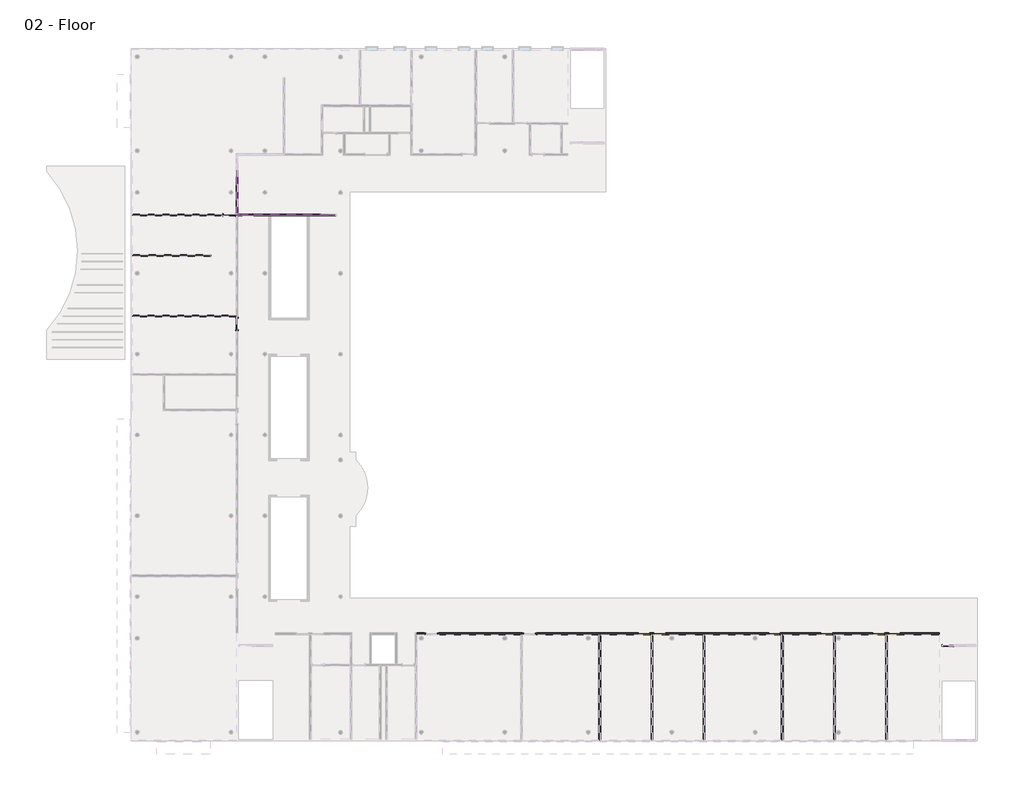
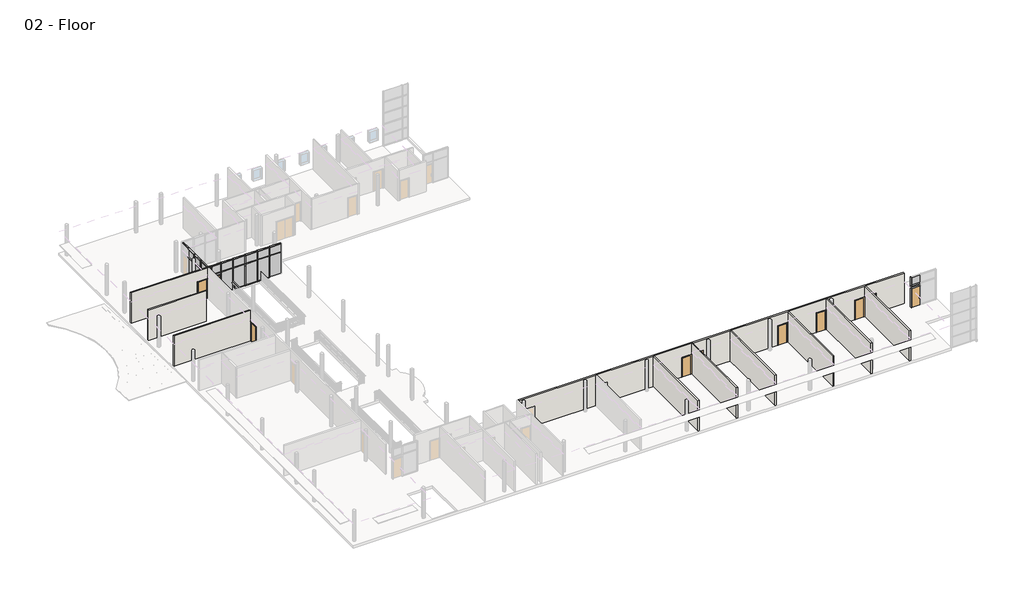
# One storey, part 2 of 5: 62 members, 22 plates, 10 doors, 10 walls.
"""IFC4 building model written with IfcOpenShell, lengths in millimetres."""

from ifc_helpers import new_model, si_unit, frame, origin, place, context, project, spatial, polyline, outline, extrude, faceted_brep, transform, mapped, element, save
from components import curtain_wall_sgl_glass_curtain_wall_sgl_glass_ab2568d1, curtain_wall_sgl_glass_curtain_wall_sgl_glass_c2d4b377, door_a1797ceb, door_a3eb833a, member_18e22e2d, member_9193c932, member_c617b399, member_28f0a790, member_2c3f20f2, member_9aff912a, member_69c8e218, member_e80433b6, member_c4de40ee, member_a715cb85, member_410c6227, member_73c23c35, member_6186cc23, member_5d67b9fc, member_c327c56d, member_a50b3cda, member_dd5c6200, member_38b8e9cb, system_panel_glazed_8c2c847a, system_panel_glazed_8a7cc684, system_panel_glazed_f4c55b59, system_panel_glazed_5b8ca2f9, system_panel_glazed_63e32c76, system_panel_glazed_72fe8651, system_panel_glazed_06645575, system_panel_glazed_1b64d018, system_panel_glazed_b962cb7b, system_panel_glazed_4de51809, system_panel_glazed_1fc46e14, system_panel_glazed_011a4f1d

model = new_model("IFC4")

# Units and contexts
model_context = context("Model", 3, world=origin())
ifc_project = project(units=[si_unit("LENGTHUNIT", "METRE", prefix="MILLI")], contexts=[model_context])

# Site, building, storey
site = spatial("IfcSite", under=ifc_project)
building = spatial("IfcBuilding", under=site)
storey = spatial("IfcBuildingStorey", under=building, Name="02 - Floor", Elevation=3657.6)

# Doors
placement = place(None, origin())
curtain_wall_sgl_glass_curtain_wall_sgl_glass_shape = curtain_wall_sgl_glass_curtain_wall_sgl_glass_ab2568d1(model_context)
element("IfcDoor", 1, ObjectType="Curtain Wall Sgl Glass : Curtain Wall Sgl Glass", at=placement, inside=storey, context=model_context, shape_type="MappedRepresentation", body=[
    mapped(curtain_wall_sgl_glass_curtain_wall_sgl_glass_shape, transform((63869.2207476, 7356.4, 3657.6), x_axis=(-1.0, 0.0, 0.0), y_axis=(0.0, -1.0, 0.0), z_axis=(0.0, 0.0, 1.0))),
])
curtain_wall_sgl_glass_curtain_wall_sgl_glass_2_shape = curtain_wall_sgl_glass_curtain_wall_sgl_glass_c2d4b377(model_context)
element("IfcDoor", 2, ObjectType="Curtain Wall Sgl Glass : Curtain Wall Sgl Glass", at=placement, inside=storey, context=model_context, shape_type="MappedRepresentation", body=[
    mapped(curtain_wall_sgl_glass_curtain_wall_sgl_glass_2_shape, transform((9279.6358763, 40897.1, 3657.6), x_axis=(-1.0, 0.0, 0.0), y_axis=(0.0, -1.0, 0.0), z_axis=(0.0, 0.0, 1.0))),
])
door_shape = door_a1797ceb(model_context)
element("IfcDoor", 3, ObjectType="Single-Flush : 36\" x 84\"", at=placement, inside=storey, context=model_context, shape_type="MappedRepresentation", body=[
    mapped(door_shape, transform((8421.0207476, 32413.5, 3657.6), x_axis=(0.0, 1.0, 0.0), y_axis=(-1.0, 0.0, 0.0), z_axis=(0.0, 0.0, 1.0))),
])
element("IfcDoor", 4, ObjectType="Single-Flush : 36\" x 84\"", at=placement, inside=storey, context=model_context, shape_type="MappedRepresentation", body=[
    mapped(door_shape, transform((41364.8207476, 8270.8, 3657.6), x_axis=(-1.0, 0.0, 0.0), y_axis=(0.0, -1.0, 0.0), z_axis=(0.0, 0.0, 1.0))),
])
element("IfcDoor", 5, ObjectType="Single-Flush : 36\" x 84\"", at=placement, inside=storey, context=model_context, shape_type="MappedRepresentation", body=[
    mapped(door_shape, transform((59652.8207476, 8270.8, 3657.6), x_axis=(-1.0, 0.0, 0.0), y_axis=(0.0, -1.0, 0.0), z_axis=(0.0, 0.0, 1.0))),
])
door_2_shape = door_a3eb833a(model_context)
element("IfcDoor", 6, ObjectType="Single-Flush : 36\" x 84\"", at=placement, inside=storey, context=model_context, shape_type="MappedRepresentation", body=[
    mapped(door_2_shape, transform((40145.6207476, 8270.8, 3657.6), x_axis=(1.0, 0.0, 0.0), y_axis=(0.0, 1.0, 0.0), z_axis=(0.0, 0.0, 1.0))),
])
element("IfcDoor", 7, ObjectType="Single-Flush : 36\" x 84\"", at=placement, inside=storey, context=model_context, shape_type="MappedRepresentation", body=[
    mapped(door_2_shape, transform((50305.6207476, 8270.8, 3657.6), x_axis=(1.0, 0.0, 0.0), y_axis=(0.0, 1.0, 0.0), z_axis=(0.0, 0.0, 1.0))),
])
element("IfcDoor", 8, ObjectType="Single-Flush : 36\" x 84\"", at=placement, inside=storey, context=model_context, shape_type="MappedRepresentation", body=[
    mapped(door_2_shape, transform((58433.6207476, 8270.8, 3657.6), x_axis=(1.0, 0.0, 0.0), y_axis=(0.0, 1.0, 0.0), z_axis=(0.0, 0.0, 1.0))),
])
element("IfcDoor", 9, ObjectType="Single-Flush : 36\" x 84\"", at=placement, inside=storey, context=model_context, shape_type="MappedRepresentation", body=[
    mapped(door_2_shape, transform((54369.6207476, 8270.8, 3657.6), x_axis=(1.0, 0.0, 0.0), y_axis=(0.0, 1.0, 0.0), z_axis=(0.0, 0.0, 1.0))),
])
element("IfcDoor", 10, ObjectType="Single-Flush : 36\" x 84\"", at=placement, inside=storey, context=model_context, shape_type="MappedRepresentation", body=[
    mapped(door_2_shape, transform((7811.4207476, 40897.1, 3657.6), x_axis=(1.0, 0.0, 0.0), y_axis=(0.0, 1.0, 0.0), z_axis=(0.0, 0.0, 1.0))),
])

# Members
member_shape = member_18e22e2d(model_context)
element("IfcMember", 11, ObjectType="Rectangular Mullion : 2.5\" x 5\" rectangular", at=placement, inside=storey, context=model_context, shape_type="MappedRepresentation", body=[
    mapped(member_shape, transform((14904.846391, 40897.1, 6096.0), x_axis=(-1.0, 0.0, 0.0), y_axis=(0.0, 1.0, 0.0), z_axis=(0.0, 0.0, -1.0))),
])
element("IfcMember", 12, ObjectType="Rectangular Mullion : 2.5\" x 5\" rectangular", at=placement, inside=storey, context=model_context, shape_type="MappedRepresentation", body=[
    mapped(member_shape, transform((13620.7812623, 40897.1, 6096.0), x_axis=(-1.0, 0.0, 0.0), y_axis=(0.0, 1.0, 0.0), z_axis=(0.0, 0.0, -1.0))),
])
element("IfcMember", 13, ObjectType="Rectangular Mullion : 2.5\" x 5\" rectangular", at=placement, inside=storey, context=model_context, shape_type="MappedRepresentation", body=[
    mapped(member_shape, transform((12336.7161336, 40897.1, 6096.0), x_axis=(-1.0, 0.0, 0.0), y_axis=(0.0, 1.0, 0.0), z_axis=(0.0, 0.0, -1.0))),
])
element("IfcMember", 14, ObjectType="Rectangular Mullion : 2.5\" x 5\" rectangular", at=placement, inside=storey, context=model_context, shape_type="MappedRepresentation", body=[
    mapped(member_shape, transform((11052.651005, 40897.1, 6096.0), x_axis=(-1.0, 0.0, 0.0), y_axis=(0.0, 1.0, 0.0), z_axis=(0.0, 0.0, -1.0))),
])
element("IfcMember", 15, ObjectType="Rectangular Mullion : 2.5\" x 5\" rectangular", at=placement, inside=storey, context=model_context, shape_type="MappedRepresentation", body=[
    mapped(member_shape, transform((9768.5858763, 40897.1, 6096.0), x_axis=(-1.0, 0.0, 0.0), y_axis=(0.0, 1.0, 0.0), z_axis=(0.0, 0.0, -1.0))),
])
element("IfcMember", 16, ObjectType="Rectangular Mullion : 2.5\" x 5\" rectangular", at=placement, inside=storey, context=model_context, shape_type="MappedRepresentation", body=[
    mapped(member_shape, transform((8421.0207476, 43284.7, 6096.0), x_axis=(0.0, -1.0, 0.0), y_axis=(-1.0, 0.0, 0.0), z_axis=(0.0, 0.0, -1.0))),
])
element("IfcMember", 17, ObjectType="Rectangular Mullion : 2.5\" x 5\" rectangular", at=placement, inside=storey, context=model_context, shape_type="MappedRepresentation", body=[
    mapped(member_shape, transform((8421.0207476, 42122.65, 6096.0), x_axis=(0.0, -1.0, 0.0), y_axis=(-1.0, 0.0, 0.0), z_axis=(0.0, 0.0, -1.0))),
])
element("IfcMember", 18, ObjectType="Rectangular Mullion : 2.5\" x 5\" rectangular", at=placement, inside=storey, context=model_context, shape_type="MappedRepresentation", body=[
    mapped(member_shape, transform((8790.6858763, 40897.1, 6096.0), x_axis=(-1.0, 0.0, 0.0), y_axis=(0.0, 1.0, 0.0), z_axis=(0.0, 0.0, -1.0))),
])
member_2_shape = member_9193c932(model_context)
element("IfcMember", 19, ObjectType="Rectangular Mullion : 2.5\" x 5\" rectangular", at=placement, inside=storey, context=model_context, shape_type="MappedRepresentation", body=[
    mapped(member_2_shape, transform((63348.5207476, 7356.4, 7061.2), x_axis=(-1.0, 0.0, 0.0), y_axis=(0.0, -1.0, 0.0), z_axis=(0.0, 0.0, 1.0))),
])
element("IfcMember", 20, ObjectType="Rectangular Mullion : 2.5\" x 5\" rectangular", at=placement, inside=storey, context=model_context, shape_type="MappedRepresentation", body=[
    mapped(member_2_shape, transform((8484.5207476, 40897.1, 6096.0), x_axis=(-1.0, 0.0, 0.0), y_axis=(0.0, 1.0, 0.0), z_axis=(0.0, 0.0, -1.0))),
])
element("IfcMember", 21, ObjectType="Rectangular Mullion : 2.5\" x 5\" rectangular", at=placement, inside=storey, context=model_context, shape_type="MappedRepresentation", body=[
    mapped(member_2_shape, transform((8421.0207476, 40960.6, 6096.0), x_axis=(0.0, -1.0, 0.0), y_axis=(-1.0, 0.0, 0.0), z_axis=(0.0, 0.0, -1.0))),
])
member_3_shape = member_c617b399(model_context)
element("IfcMember", 22, ObjectType="Rectangular Mullion : 2.5\" x 5\" rectangular", at=placement, inside=storey, context=model_context, shape_type="MappedRepresentation", body=[
    mapped(member_3_shape, transform((14936.596391, 40897.1, 7061.2), x_axis=(0.0, 0.0, 1.0), y_axis=(0.0, 1.0, 0.0), z_axis=(-1.0, 0.0, 0.0))),
])
member_4_shape = member_28f0a790(model_context)
element("IfcMember", 23, ObjectType="Rectangular Mullion : 2.5\" x 5\" rectangular", at=placement, inside=storey, context=model_context, shape_type="MappedRepresentation", body=[
    mapped(member_4_shape, transform((13652.5312623, 40897.1, 7061.2), x_axis=(0.0, 0.0, 1.0), y_axis=(0.0, 1.0, 0.0), z_axis=(-1.0, 0.0, 0.0))),
])
element("IfcMember", 24, ObjectType="Rectangular Mullion : 2.5\" x 5\" rectangular", at=placement, inside=storey, context=model_context, shape_type="MappedRepresentation", body=[
    mapped(member_4_shape, transform((12368.4661336, 40897.1, 7061.2), x_axis=(0.0, 0.0, 1.0), y_axis=(0.0, 1.0, 0.0), z_axis=(-1.0, 0.0, 0.0))),
])
element("IfcMember", 25, ObjectType="Rectangular Mullion : 2.5\" x 5\" rectangular", at=placement, inside=storey, context=model_context, shape_type="MappedRepresentation", body=[
    mapped(member_4_shape, transform((11084.401005, 40897.1, 7061.2), x_axis=(0.0, 0.0, 1.0), y_axis=(0.0, 1.0, 0.0), z_axis=(-1.0, 0.0, 0.0))),
])
element("IfcMember", 26, ObjectType="Rectangular Mullion : 2.5\" x 5\" rectangular", at=placement, inside=storey, context=model_context, shape_type="MappedRepresentation", body=[
    mapped(member_4_shape, transform((9800.3358763, 40897.1, 7061.2), x_axis=(0.0, 0.0, 1.0), y_axis=(0.0, 1.0, 0.0), z_axis=(-1.0, 0.0, 0.0))),
])
element("IfcMember", 27, ObjectType="Rectangular Mullion : 2.5\" x 5\" rectangular", at=placement, inside=storey, context=model_context, shape_type="MappedRepresentation", body=[
    mapped(member_4_shape, transform((14873.096391, 40897.1, 3657.6), x_axis=(0.0, 0.0, -1.0), y_axis=(0.0, 1.0, 0.0), z_axis=(1.0, 0.0, 0.0))),
])
element("IfcMember", 28, ObjectType="Rectangular Mullion : 2.5\" x 5\" rectangular", at=placement, inside=storey, context=model_context, shape_type="MappedRepresentation", body=[
    mapped(member_4_shape, transform((13589.0312623, 40897.1, 3657.6), x_axis=(0.0, 0.0, -1.0), y_axis=(0.0, 1.0, 0.0), z_axis=(1.0, 0.0, 0.0))),
])
element("IfcMember", 29, ObjectType="Rectangular Mullion : 2.5\" x 5\" rectangular", at=placement, inside=storey, context=model_context, shape_type="MappedRepresentation", body=[
    mapped(member_4_shape, transform((12304.9661336, 40897.1, 3657.6), x_axis=(0.0, 0.0, -1.0), y_axis=(0.0, 1.0, 0.0), z_axis=(1.0, 0.0, 0.0))),
])
element("IfcMember", 30, ObjectType="Rectangular Mullion : 2.5\" x 5\" rectangular", at=placement, inside=storey, context=model_context, shape_type="MappedRepresentation", body=[
    mapped(member_4_shape, transform((11020.901005, 40897.1, 3657.6), x_axis=(0.0, 0.0, -1.0), y_axis=(0.0, 1.0, 0.0), z_axis=(1.0, 0.0, 0.0))),
])
member_5_shape = member_2c3f20f2(model_context)
element("IfcMember", 31, ObjectType="Rectangular Mullion : 2.5\" x 5\" rectangular", at=placement, inside=storey, context=model_context, shape_type="MappedRepresentation", body=[
    mapped(member_5_shape, transform((14936.596391, 40897.1, 6096.0), x_axis=(0.0, 0.0, 1.0), y_axis=(0.0, 1.0, 0.0), z_axis=(-1.0, 0.0, 0.0))),
])
member_6_shape = member_9aff912a(model_context)
element("IfcMember", 32, ObjectType="Rectangular Mullion : 2.5\" x 5\" rectangular", at=placement, inside=storey, context=model_context, shape_type="MappedRepresentation", body=[
    mapped(member_6_shape, transform((13652.5312623, 40897.1, 6096.0), x_axis=(0.0, 0.0, 1.0), y_axis=(0.0, 1.0, 0.0), z_axis=(-1.0, 0.0, 0.0))),
])
element("IfcMember", 33, ObjectType="Rectangular Mullion : 2.5\" x 5\" rectangular", at=placement, inside=storey, context=model_context, shape_type="MappedRepresentation", body=[
    mapped(member_6_shape, transform((12368.4661336, 40897.1, 6096.0), x_axis=(0.0, 0.0, 1.0), y_axis=(0.0, 1.0, 0.0), z_axis=(-1.0, 0.0, 0.0))),
])
element("IfcMember", 34, ObjectType="Rectangular Mullion : 2.5\" x 5\" rectangular", at=placement, inside=storey, context=model_context, shape_type="MappedRepresentation", body=[
    mapped(member_6_shape, transform((11084.401005, 40897.1, 6096.0), x_axis=(0.0, 0.0, 1.0), y_axis=(0.0, 1.0, 0.0), z_axis=(-1.0, 0.0, 0.0))),
])
element("IfcMember", 35, ObjectType="Rectangular Mullion : 2.5\" x 5\" rectangular", at=placement, inside=storey, context=model_context, shape_type="MappedRepresentation", body=[
    mapped(member_6_shape, transform((9800.3358763, 40897.1, 6096.0), x_axis=(0.0, 0.0, 1.0), y_axis=(0.0, 1.0, 0.0), z_axis=(-1.0, 0.0, 0.0))),
])
member_7_shape = member_69c8e218(model_context)
element("IfcMember", 36, ObjectType="Rectangular Mullion : 2.5\" x 5\" rectangular", at=placement, inside=storey, context=model_context, shape_type="MappedRepresentation", body=[
    mapped(member_7_shape, transform((8421.0207476, 43316.45, 7061.2), x_axis=(0.0, 0.0, 1.0), y_axis=(-1.0, 0.0, 0.0), z_axis=(0.0, -1.0, 0.0))),
])
element("IfcMember", 37, ObjectType="Rectangular Mullion : 2.5\" x 5\" rectangular", at=placement, inside=storey, context=model_context, shape_type="MappedRepresentation", body=[
    mapped(member_7_shape, transform((8421.0207476, 42154.4, 7061.2), x_axis=(0.0, 0.0, 1.0), y_axis=(-1.0, 0.0, 0.0), z_axis=(0.0, -1.0, 0.0))),
])
element("IfcMember", 38, ObjectType="Rectangular Mullion : 2.5\" x 5\" rectangular", at=placement, inside=storey, context=model_context, shape_type="MappedRepresentation", body=[
    mapped(member_7_shape, transform((8421.0207476, 43252.95, 3657.6), x_axis=(0.0, 0.0, -1.0), y_axis=(-1.0, 0.0, 0.0), z_axis=(0.0, 1.0, 0.0))),
])
member_8_shape = member_e80433b6(model_context)
element("IfcMember", 39, ObjectType="Rectangular Mullion : 2.5\" x 5\" rectangular", at=placement, inside=storey, context=model_context, shape_type="MappedRepresentation", body=[
    mapped(member_8_shape, transform((8421.0207476, 43316.45, 6096.0), x_axis=(0.0, 0.0, 1.0), y_axis=(-1.0, 0.0, 0.0), z_axis=(0.0, -1.0, 0.0))),
])
element("IfcMember", 40, ObjectType="Rectangular Mullion : 2.5\" x 5\" rectangular", at=placement, inside=storey, context=model_context, shape_type="MappedRepresentation", body=[
    mapped(member_8_shape, transform((8421.0207476, 42154.4, 6096.0), x_axis=(0.0, 0.0, 1.0), y_axis=(-1.0, 0.0, 0.0), z_axis=(0.0, -1.0, 0.0))),
])
member_9_shape = member_c4de40ee(model_context)
element("IfcMember", 41, ObjectType="Rectangular Mullion : 2.5\" x 5\" rectangular", at=placement, inside=storey, context=model_context, shape_type="MappedRepresentation", body=[
    mapped(member_9_shape, transform((8421.0207476, 41024.1, 7061.2), x_axis=(0.0, 0.0, 1.0), y_axis=(-1.0, 0.0, 0.0), z_axis=(0.0, -1.0, 0.0))),
])
element("IfcMember", 42, ObjectType="Rectangular Mullion : 2.5\" x 5\" rectangular", at=placement, inside=storey, context=model_context, shape_type="MappedRepresentation", body=[
    mapped(member_9_shape, transform((8421.0207476, 42090.9, 3657.6), x_axis=(0.0, 0.0, -1.0), y_axis=(-1.0, 0.0, 0.0), z_axis=(0.0, 1.0, 0.0))),
])
member_10_shape = member_a715cb85(model_context)
element("IfcMember", 43, ObjectType="Rectangular Mullion : 2.5\" x 5\" rectangular", at=placement, inside=storey, context=model_context, shape_type="MappedRepresentation", body=[
    mapped(member_10_shape, transform((8421.0207476, 41024.1, 6096.0), x_axis=(0.0, 0.0, 1.0), y_axis=(-1.0, 0.0, 0.0), z_axis=(0.0, -1.0, 0.0))),
])
member_11_shape = member_410c6227(model_context)
element("IfcMember", 44, ObjectType="Rectangular Mullion : 2.5\" x 5\" rectangular", at=placement, inside=storey, context=model_context, shape_type="MappedRepresentation", body=[
    mapped(member_11_shape, transform((8822.4358763, 40897.1, 6096.0), x_axis=(0.0, 0.0, 1.0), y_axis=(0.0, 1.0, 0.0), z_axis=(-1.0, 0.0, 0.0))),
])
element("IfcMember", 45, ObjectType="Rectangular Mullion : 2.5\" x 5\" rectangular", at=placement, inside=storey, context=model_context, shape_type="MappedRepresentation", body=[
    mapped(member_11_shape, transform((8822.4358763, 40897.1, 5822.95), x_axis=(0.0, 0.0, 1.0), y_axis=(0.0, 1.0, 0.0), z_axis=(-1.0, 0.0, 0.0))),
])
member_12_shape = member_73c23c35(model_context)
element("IfcMember", 46, ObjectType="Rectangular Mullion : 2.5\" x 5\" rectangular", at=placement, inside=storey, context=model_context, shape_type="MappedRepresentation", body=[
    mapped(member_12_shape, transform((8421.0207476, 44478.5, 7061.2), x_axis=(0.0, 0.0, 1.0), y_axis=(-1.0, 0.0, 0.0), z_axis=(0.0, -1.0, 0.0))),
])
element("IfcMember", 47, ObjectType="Rectangular Mullion : 2.5\" x 5\" rectangular", at=placement, inside=storey, context=model_context, shape_type="MappedRepresentation", body=[
    mapped(member_12_shape, transform((8822.4358763, 40897.1, 7061.2), x_axis=(0.0, 0.0, 1.0), y_axis=(0.0, 1.0, 0.0), z_axis=(-1.0, 0.0, 0.0))),
])
member_13_shape = member_6186cc23(model_context)
element("IfcMember", 48, ObjectType="Rectangular Mullion : 2.5\" x 5\" rectangular", at=placement, inside=storey, context=model_context, shape_type="MappedRepresentation", body=[
    mapped(member_13_shape, transform((9768.5858763, 40897.1, 3657.6), x_axis=(-1.0, 0.0, 0.0), y_axis=(0.0, 1.0, 0.0), z_axis=(0.0, 0.0, -1.0))),
])
element("IfcMember", 49, ObjectType="Rectangular Mullion : 2.5\" x 5\" rectangular", at=placement, inside=storey, context=model_context, shape_type="MappedRepresentation", body=[
    mapped(member_13_shape, transform((8790.6858763, 40897.1, 3657.6), x_axis=(-1.0, 0.0, 0.0), y_axis=(0.0, 1.0, 0.0), z_axis=(0.0, 0.0, -1.0))),
])
member_14_shape = member_5d67b9fc(model_context)
element("IfcMember", 50, ObjectType="Rectangular Mullion : 2.5\" x 5\" rectangular", at=placement, inside=storey, context=model_context, shape_type="MappedRepresentation", body=[
    mapped(member_14_shape, transform((9768.5858763, 40897.1, 5822.95), x_axis=(-1.0, 0.0, 0.0), y_axis=(0.0, 1.0, 0.0), z_axis=(0.0, 0.0, -1.0))),
])
element("IfcMember", 51, ObjectType="Rectangular Mullion : 2.5\" x 5\" rectangular", at=placement, inside=storey, context=model_context, shape_type="MappedRepresentation", body=[
    mapped(member_14_shape, transform((8790.6858763, 40897.1, 5822.95), x_axis=(-1.0, 0.0, 0.0), y_axis=(0.0, 1.0, 0.0), z_axis=(0.0, 0.0, -1.0))),
])
member_15_shape = member_c327c56d(model_context)
element("IfcMember", 52, ObjectType="Rectangular Mullion : 2.5\" x 5\" rectangular", at=placement, inside=storey, context=model_context, shape_type="MappedRepresentation", body=[
    mapped(member_15_shape, transform((63348.5207476, 7356.4, 6096.0), x_axis=(-1.0, 0.0, 0.0), y_axis=(0.0, -1.0, 0.0), z_axis=(0.0, 0.0, 1.0))),
])
member_16_shape = member_a50b3cda(model_context)
element("IfcMember", 53, ObjectType="Rectangular Mullion : 2.5\" x 5\" rectangular", at=placement, inside=storey, context=model_context, shape_type="MappedRepresentation", body=[
    mapped(member_16_shape, transform((63348.5207476, 7356.4, 5822.95), x_axis=(-1.0, 0.0, 0.0), y_axis=(0.0, -1.0, 0.0), z_axis=(0.0, 0.0, 1.0))),
])
element("IfcMember", 54, ObjectType="Rectangular Mullion : 2.5\" x 5\" rectangular", at=placement, inside=storey, context=model_context, shape_type="MappedRepresentation", body=[
    mapped(member_16_shape, transform((8484.5207476, 40897.1, 3657.6), x_axis=(-1.0, 0.0, 0.0), y_axis=(0.0, 1.0, 0.0), z_axis=(0.0, 0.0, -1.0))),
])
element("IfcMember", 55, ObjectType="Rectangular Mullion : 2.5\" x 5\" rectangular", at=placement, inside=storey, context=model_context, shape_type="MappedRepresentation", body=[
    mapped(member_16_shape, transform((8421.0207476, 40960.6, 3657.6), x_axis=(0.0, -1.0, 0.0), y_axis=(-1.0, 0.0, 0.0), z_axis=(0.0, 0.0, -1.0))),
])
element("IfcMember", 56, ObjectType="Rectangular Mullion : 2.5\" x 5\" rectangular", at=placement, inside=storey, context=model_context, shape_type="MappedRepresentation", body=[
    mapped(member_15_shape, transform((8484.5207476, 40897.1, 5822.95), x_axis=(-1.0, 0.0, 0.0), y_axis=(0.0, 1.0, 0.0), z_axis=(0.0, 0.0, -1.0))),
])
element("IfcMember", 57, ObjectType="Rectangular Mullion : 2.5\" x 5\" rectangular", at=placement, inside=storey, context=model_context, shape_type="MappedRepresentation", body=[
    mapped(member_15_shape, transform((8421.0207476, 40960.6, 5822.95), x_axis=(0.0, -1.0, 0.0), y_axis=(-1.0, 0.0, 0.0), z_axis=(0.0, 0.0, -1.0))),
])
member_17_shape = member_dd5c6200(model_context)
element("IfcMember", 58, ObjectType="Rectangular Mullion : 2.5\" x 5\" rectangular", at=placement, inside=storey, context=model_context, shape_type="MappedRepresentation", body=[
    mapped(member_17_shape, transform((8548.0207476, 40897.1, 7061.2), x_axis=(0.0, 0.0, 1.0), y_axis=(0.0, 1.0, 0.0), z_axis=(-1.0, 0.0, 0.0))),
])
element("IfcMember", 59, ObjectType="Rectangular Mullion : 2.5\" x 5\" rectangular", at=placement, inside=storey, context=model_context, shape_type="MappedRepresentation", body=[
    mapped(member_17_shape, transform((8758.9358763, 40897.1, 3657.6), x_axis=(0.0, 0.0, -1.0), y_axis=(0.0, 1.0, 0.0), z_axis=(1.0, 0.0, 0.0))),
])
member_18_shape = member_38b8e9cb(model_context)
element("IfcMember", 60, ObjectType="Rectangular Mullion : 2.5\" x 5\" rectangular", at=placement, inside=storey, context=model_context, shape_type="MappedRepresentation", body=[
    mapped(member_18_shape, transform((8548.0207476, 40897.1, 6096.0), x_axis=(0.0, 0.0, 1.0), y_axis=(0.0, 1.0, 0.0), z_axis=(-1.0, 0.0, 0.0))),
])
element("IfcMember", 61, ObjectType="Rectangular Mullion : 2.5\" x 5\" rectangular", at=placement, inside=storey, context=model_context, shape_type="MappedRepresentation", body=[
    mapped(member_13_shape, transform((14904.846391, 40897.1, 3657.6), x_axis=(-1.0, 0.0, 0.0), y_axis=(0.0, 1.0, 0.0), z_axis=(0.0, 0.0, -1.0))),
])
element("IfcMember", 62, ObjectType="Rectangular Mullion : 2.5\" x 5\" rectangular", at=placement, inside=storey, context=model_context, shape_type="MappedRepresentation", body=[
    mapped(member_13_shape, transform((13620.7812623, 40897.1, 3657.6), x_axis=(-1.0, 0.0, 0.0), y_axis=(0.0, 1.0, 0.0), z_axis=(0.0, 0.0, -1.0))),
])
element("IfcMember", 63, ObjectType="Rectangular Mullion : 2.5\" x 5\" rectangular", at=placement, inside=storey, context=model_context, shape_type="MappedRepresentation", body=[
    mapped(member_13_shape, transform((12336.7161336, 40897.1, 3657.6), x_axis=(-1.0, 0.0, 0.0), y_axis=(0.0, 1.0, 0.0), z_axis=(0.0, 0.0, -1.0))),
])
element("IfcMember", 64, ObjectType="Rectangular Mullion : 2.5\" x 5\" rectangular", at=placement, inside=storey, context=model_context, shape_type="MappedRepresentation", body=[
    mapped(member_13_shape, transform((11052.651005, 40897.1, 3657.6), x_axis=(-1.0, 0.0, 0.0), y_axis=(0.0, 1.0, 0.0), z_axis=(0.0, 0.0, -1.0))),
])
element("IfcMember", 65, ObjectType="Rectangular Mullion : 2.5\" x 5\" rectangular", at=placement, inside=storey, context=model_context, shape_type="MappedRepresentation", body=[
    mapped(member_13_shape, transform((8421.0207476, 43284.7, 3657.6), x_axis=(0.0, -1.0, 0.0), y_axis=(-1.0, 0.0, 0.0), z_axis=(0.0, 0.0, -1.0))),
])
element("IfcMember", 66, ObjectType="Rectangular Mullion : 2.5\" x 5\" rectangular", at=placement, inside=storey, context=model_context, shape_type="MappedRepresentation", body=[
    mapped(member_13_shape, transform((8421.0207476, 42122.65, 3657.6), x_axis=(0.0, -1.0, 0.0), y_axis=(-1.0, 0.0, 0.0), z_axis=(0.0, 0.0, -1.0))),
])
element("IfcMember", 67, ObjectType="Rectangular Mullion : 2.5\" x 5\" rectangular", at=placement, inside=storey, context=model_context, shape_type="MappedRepresentation", body=[
    mapped(member_14_shape, transform((14904.846391, 40897.1, 5822.95), x_axis=(-1.0, 0.0, 0.0), y_axis=(0.0, 1.0, 0.0), z_axis=(0.0, 0.0, -1.0))),
])
element("IfcMember", 68, ObjectType="Rectangular Mullion : 2.5\" x 5\" rectangular", at=placement, inside=storey, context=model_context, shape_type="MappedRepresentation", body=[
    mapped(member_14_shape, transform((13620.7812623, 40897.1, 5822.95), x_axis=(-1.0, 0.0, 0.0), y_axis=(0.0, 1.0, 0.0), z_axis=(0.0, 0.0, -1.0))),
])
element("IfcMember", 69, ObjectType="Rectangular Mullion : 2.5\" x 5\" rectangular", at=placement, inside=storey, context=model_context, shape_type="MappedRepresentation", body=[
    mapped(member_14_shape, transform((12336.7161336, 40897.1, 5822.95), x_axis=(-1.0, 0.0, 0.0), y_axis=(0.0, 1.0, 0.0), z_axis=(0.0, 0.0, -1.0))),
])
element("IfcMember", 70, ObjectType="Rectangular Mullion : 2.5\" x 5\" rectangular", at=placement, inside=storey, context=model_context, shape_type="MappedRepresentation", body=[
    mapped(member_14_shape, transform((11052.651005, 40897.1, 5822.95), x_axis=(-1.0, 0.0, 0.0), y_axis=(0.0, 1.0, 0.0), z_axis=(0.0, 0.0, -1.0))),
])
element("IfcMember", 71, ObjectType="Rectangular Mullion : 2.5\" x 5\" rectangular", at=placement, inside=storey, context=model_context, shape_type="MappedRepresentation", body=[
    mapped(member_14_shape, transform((8421.0207476, 43284.7, 5822.95), x_axis=(0.0, -1.0, 0.0), y_axis=(-1.0, 0.0, 0.0), z_axis=(0.0, 0.0, -1.0))),
])
element("IfcMember", 72, ObjectType="Rectangular Mullion : 2.5\" x 5\" rectangular", at=placement, inside=storey, context=model_context, shape_type="MappedRepresentation", body=[
    mapped(member_14_shape, transform((8421.0207476, 42122.65, 5822.95), x_axis=(0.0, -1.0, 0.0), y_axis=(-1.0, 0.0, 0.0), z_axis=(0.0, 0.0, -1.0))),
])

# Plates
system_panel_glazed_shape = system_panel_glazed_8c2c847a(model_context)
element("IfcPlate", 73, ObjectType="System Panel : Glazed", at=placement, inside=storey, context=model_context, shape_type="MappedRepresentation", body=[
    mapped(system_panel_glazed_shape, transform((8421.0207476, 43865.725, 6127.75), x_axis=(0.0, -1.0, 0.0), y_axis=(1.0, 0.0, 0.0), z_axis=(0.0, 0.0, 1.0))),
])
element("IfcPlate", 74, ObjectType="System Panel : Glazed", at=placement, inside=storey, context=model_context, shape_type="MappedRepresentation", body=[
    mapped(system_panel_glazed_shape, transform((8421.0207476, 42703.675, 6127.75), x_axis=(0.0, -1.0, 0.0), y_axis=(1.0, 0.0, 0.0), z_axis=(0.0, 0.0, 1.0))),
])
system_panel_glazed_2_shape = system_panel_glazed_8a7cc684(model_context)
element("IfcPlate", 75, ObjectType="System Panel : Glazed", at=placement, inside=storey, context=model_context, shape_type="MappedRepresentation", body=[
    mapped(system_panel_glazed_2_shape, transform((15531.0039553, 40897.1, 6127.75), x_axis=(-1.0, 0.0, 0.0), y_axis=(0.0, -1.0, 0.0), z_axis=(0.0, 0.0, 1.0))),
])
system_panel_glazed_3_shape = system_panel_glazed_f4c55b59(model_context)
element("IfcPlate", 76, ObjectType="System Panel : Glazed", at=placement, inside=storey, context=model_context, shape_type="MappedRepresentation", body=[
    mapped(system_panel_glazed_3_shape, transform((14262.8138267, 40897.1, 6127.75), x_axis=(-1.0, 0.0, 0.0), y_axis=(0.0, -1.0, 0.0), z_axis=(0.0, 0.0, 1.0))),
])
element("IfcPlate", 77, ObjectType="System Panel : Glazed", at=placement, inside=storey, context=model_context, shape_type="MappedRepresentation", body=[
    mapped(system_panel_glazed_3_shape, transform((12978.748698, 40897.1, 6127.75), x_axis=(-1.0, 0.0, 0.0), y_axis=(0.0, -1.0, 0.0), z_axis=(0.0, 0.0, 1.0))),
])
element("IfcPlate", 78, ObjectType="System Panel : Glazed", at=placement, inside=storey, context=model_context, shape_type="MappedRepresentation", body=[
    mapped(system_panel_glazed_3_shape, transform((11694.6835693, 40897.1, 6127.75), x_axis=(-1.0, 0.0, 0.0), y_axis=(0.0, -1.0, 0.0), z_axis=(0.0, 0.0, 1.0))),
])
element("IfcPlate", 79, ObjectType="System Panel : Glazed", at=placement, inside=storey, context=model_context, shape_type="MappedRepresentation", body=[
    mapped(system_panel_glazed_3_shape, transform((10410.6184406, 40897.1, 6127.75), x_axis=(-1.0, 0.0, 0.0), y_axis=(0.0, -1.0, 0.0), z_axis=(0.0, 0.0, 1.0))),
])
system_panel_glazed_4_shape = system_panel_glazed_5b8ca2f9(model_context)
element("IfcPlate", 80, ObjectType="System Panel : Glazed", at=placement, inside=storey, context=model_context, shape_type="MappedRepresentation", body=[
    mapped(system_panel_glazed_4_shape, transform((8421.0207476, 41557.5, 6127.75), x_axis=(0.0, -1.0, 0.0), y_axis=(1.0, 0.0, 0.0), z_axis=(0.0, 0.0, 1.0))),
])
system_panel_glazed_5_shape = system_panel_glazed_63e32c76(model_context)
element("IfcPlate", 81, ObjectType="System Panel : Glazed", at=placement, inside=storey, context=model_context, shape_type="MappedRepresentation", body=[
    mapped(system_panel_glazed_5_shape, transform((9279.6358763, 40897.1, 6127.75), x_axis=(-1.0, 0.0, 0.0), y_axis=(0.0, -1.0, 0.0), z_axis=(0.0, 0.0, 1.0))),
])
element("IfcPlate", 82, ObjectType="System Panel : Glazed", at=placement, inside=storey, context=model_context, shape_type="MappedRepresentation", body=[
    mapped(system_panel_glazed_5_shape, transform((63869.2207476, 7356.4, 6127.75), x_axis=(1.0, 0.0, 0.0), y_axis=(0.0, 1.0, 0.0), z_axis=(0.0, 0.0, 1.0))),
])
system_panel_glazed_6_shape = system_panel_glazed_72fe8651(model_context)
element("IfcPlate", 83, ObjectType="System Panel : Glazed", at=placement, inside=storey, context=model_context, shape_type="MappedRepresentation", body=[
    mapped(system_panel_glazed_6_shape, transform((63869.2207476, 7356.4, 5854.7), x_axis=(1.0, 0.0, 0.0), y_axis=(0.0, 1.0, 0.0), z_axis=(0.0, 0.0, 1.0))),
])
element("IfcPlate", 84, ObjectType="System Panel : Glazed", at=placement, inside=storey, context=model_context, shape_type="MappedRepresentation", body=[
    mapped(system_panel_glazed_6_shape, transform((9279.6358763, 40897.1, 5854.7), x_axis=(-1.0, 0.0, 0.0), y_axis=(0.0, -1.0, 0.0), z_axis=(0.0, 0.0, 1.0))),
])
system_panel_glazed_7_shape = system_panel_glazed_06645575(model_context)
element("IfcPlate", 85, ObjectType="System Panel : Glazed", at=placement, inside=storey, context=model_context, shape_type="MappedRepresentation", body=[
    mapped(system_panel_glazed_7_shape, transform((8653.478312, 40897.1, 6127.75), x_axis=(-1.0, 0.0, 0.0), y_axis=(0.0, -1.0, 0.0), z_axis=(0.0, 0.0, 1.0))),
])
system_panel_glazed_8_shape = system_panel_glazed_1b64d018(model_context)
element("IfcPlate", 86, ObjectType="System Panel : Glazed", at=placement, inside=storey, context=model_context, shape_type="MappedRepresentation", body=[
    mapped(system_panel_glazed_8_shape, transform((15531.0039553, 40897.1, 3721.1), x_axis=(-1.0, 0.0, 0.0), y_axis=(0.0, -1.0, 0.0), z_axis=(0.0, 0.0, 1.0))),
])
system_panel_glazed_9_shape = system_panel_glazed_b962cb7b(model_context)
element("IfcPlate", 87, ObjectType="System Panel : Glazed", at=placement, inside=storey, context=model_context, shape_type="MappedRepresentation", body=[
    mapped(system_panel_glazed_9_shape, transform((14262.8138267, 40897.1, 3721.1), x_axis=(-1.0, 0.0, 0.0), y_axis=(0.0, -1.0, 0.0), z_axis=(0.0, 0.0, 1.0))),
])
element("IfcPlate", 88, ObjectType="System Panel : Glazed", at=placement, inside=storey, context=model_context, shape_type="MappedRepresentation", body=[
    mapped(system_panel_glazed_9_shape, transform((12978.748698, 40897.1, 3721.1), x_axis=(-1.0, 0.0, 0.0), y_axis=(0.0, -1.0, 0.0), z_axis=(0.0, 0.0, 1.0))),
])
element("IfcPlate", 89, ObjectType="System Panel : Glazed", at=placement, inside=storey, context=model_context, shape_type="MappedRepresentation", body=[
    mapped(system_panel_glazed_9_shape, transform((11694.6835693, 40897.1, 3721.1), x_axis=(-1.0, 0.0, 0.0), y_axis=(0.0, -1.0, 0.0), z_axis=(0.0, 0.0, 1.0))),
])
element("IfcPlate", 90, ObjectType="System Panel : Glazed", at=placement, inside=storey, context=model_context, shape_type="MappedRepresentation", body=[
    mapped(system_panel_glazed_9_shape, transform((10410.6184406, 40897.1, 3721.1), x_axis=(-1.0, 0.0, 0.0), y_axis=(0.0, -1.0, 0.0), z_axis=(0.0, 0.0, 1.0))),
])
system_panel_glazed_10_shape = system_panel_glazed_4de51809(model_context)
element("IfcPlate", 91, ObjectType="System Panel : Glazed", at=placement, inside=storey, context=model_context, shape_type="MappedRepresentation", body=[
    mapped(system_panel_glazed_10_shape, transform((8653.478312, 40897.1, 3721.1), x_axis=(-1.0, 0.0, 0.0), y_axis=(0.0, -1.0, 0.0), z_axis=(0.0, 0.0, 1.0))),
])
system_panel_glazed_11_shape = system_panel_glazed_1fc46e14(model_context)
element("IfcPlate", 92, ObjectType="System Panel : Glazed", at=placement, inside=storey, context=model_context, shape_type="MappedRepresentation", body=[
    mapped(system_panel_glazed_11_shape, transform((8421.0207476, 43865.725, 3721.1), x_axis=(0.0, -1.0, 0.0), y_axis=(1.0, 0.0, 0.0), z_axis=(0.0, 0.0, 1.0))),
])
element("IfcPlate", 93, ObjectType="System Panel : Glazed", at=placement, inside=storey, context=model_context, shape_type="MappedRepresentation", body=[
    mapped(system_panel_glazed_11_shape, transform((8421.0207476, 42703.675, 3721.1), x_axis=(0.0, -1.0, 0.0), y_axis=(1.0, 0.0, 0.0), z_axis=(0.0, 0.0, 1.0))),
])
system_panel_glazed_12_shape = system_panel_glazed_011a4f1d(model_context)
element("IfcPlate", 94, ObjectType="System Panel : Glazed", at=placement, inside=storey, context=model_context, shape_type="MappedRepresentation", body=[
    mapped(system_panel_glazed_12_shape, transform((8421.0207476, 41557.5, 3721.1), x_axis=(0.0, -1.0, 0.0), y_axis=(1.0, 0.0, 0.0), z_axis=(0.0, 0.0, 1.0))),
])

# Walls
element("IfcWall", 95, ObjectType="Generic - 5\"", at=placement, inside=storey, context=model_context, shape_type="SweptSolid", body=[
    extrude(outline(polyline([(8357.5207476, 32959.6), (280.3207476, 32959.6), (280.3207476, 33086.6), (8357.5207476, 33086.6), (8357.5207476, 32959.6)])), frame((0.0, 0.0, 3657.6), z_axis=(0.0, 0.0, 1.0), x_axis=(1.0, 0.0, 0.0)), (0.0, 0.0, 1.0), 3403.6),
])
element("IfcWall", 96, ObjectType="Generic - 5\"", at=placement, inside=storey, context=model_context, shape_type="SweptSolid", body=[
    extrude(outline(polyline([(40818.7207476, 8207.3), (40818.7207476, 15.8), (40691.7207476, 15.8), (40691.7207476, 8207.3), (40818.7207476, 8207.3)])), frame((0.0, 0.0, 3657.6), z_axis=(0.0, 0.0, 1.0), x_axis=(1.0, 0.0, 0.0)), (0.0, 0.0, 1.0), 3403.6),
])
element("IfcWall", 97, ObjectType="Generic - 5\"", at=placement, inside=storey, context=model_context, shape_type="SweptSolid", body=[
    extrude(outline(polyline([(50978.7207476, 8207.3), (50978.7207476, 15.8), (50851.7207476, 15.8), (50851.7207476, 8207.3), (50978.7207476, 8207.3)])), frame((0.0, 0.0, 3657.6), z_axis=(0.0, 0.0, 1.0), x_axis=(1.0, 0.0, 0.0)), (0.0, 0.0, 1.0), 3403.6),
])
element("IfcWall", 98, ObjectType="Generic - 5\"", at=placement, inside=storey, context=model_context, shape_type="SweptSolid", body=[
    extrude(outline(polyline([(55042.7207476, 8207.3), (55042.7207476, 15.8), (54915.7207476, 15.8), (54915.7207476, 8207.3), (55042.7207476, 8207.3)])), frame((0.0, 0.0, 3657.6), z_axis=(0.0, 0.0, 1.0), x_axis=(1.0, 0.0, 0.0)), (0.0, 0.0, 1.0), 3403.6),
])
element("IfcWall", 99, ObjectType="Generic - 5\"", at=placement, inside=storey, context=model_context, shape_type="SweptSolid", body=[
    extrude(outline(polyline([(44882.7207476, 8207.3), (44882.7207476, 15.8), (44755.7207476, 15.8), (44755.7207476, 8207.3), (44882.7207476, 8207.3)])), frame((0.0, 0.0, 3657.6), z_axis=(0.0, 0.0, 1.0), x_axis=(1.0, 0.0, 0.0)), (0.0, 0.0, 1.0), 3403.6),
])
element("IfcWall", 100, ObjectType="Generic - 5\"", at=placement, inside=storey, context=model_context, shape_type="SweptSolid", body=[
    extrude(outline(polyline([(36754.7207476, 8207.3), (36754.7207476, 15.8), (36627.7207476, 15.8), (36627.7207476, 8207.3), (36754.7207476, 8207.3)])), frame((0.0, 0.0, 3657.6), z_axis=(0.0, 0.0, 1.0), x_axis=(1.0, 0.0, 0.0)), (0.0, 0.0, 1.0), 3403.6),
])
element("IfcWall", 101, ObjectType="Generic - 5\"", at=placement, inside=storey, context=model_context, shape_type="SweptSolid", body=[
    extrude(outline(polyline([(59106.7207476, 8207.3), (59106.7207476, 15.8), (58979.7207476, 15.8), (58979.7207476, 8207.3), (59106.7207476, 8207.3)])), frame((0.0, 0.0, 3657.6), z_axis=(0.0, 0.0, 1.0), x_axis=(1.0, 0.0, 0.0)), (0.0, 0.0, 1.0), 3403.6),
])
element("IfcWall", 102, ObjectType="Generic - 5\"", at=placement, inside=storey, context=model_context, shape_type="SweptSolid", body=[
    extrude(outline(polyline([(6387.9410974, 37671.3), (280.3207476, 37671.3), (280.3207476, 37798.3), (6387.9410974, 37798.3), (6387.9410974, 37671.3)])), frame((0.0, 0.0, 3657.6), z_axis=(0.0, 0.0, 1.0), x_axis=(1.0, 0.0, 0.0)), (0.0, 0.0, 1.0), 3403.6),
])
element("IfcWall", 103, ObjectType="Generic - 5\"", at=placement, inside=storey, context=model_context, shape_type="Brep", body=[
    faceted_brep([(8268.6207476, 40833.6, 5791.2), (8268.6207476, 40833.6, 3657.6), (8357.5207476, 40833.6, 3657.6), (8484.5207476, 40833.6, 3657.6), (8484.5207476, 40833.6, 7061.2), (8357.5207476, 40833.6, 7061.2), (280.3207476, 40833.6, 7061.2), (280.3207476, 40833.6, 3657.6), (7354.2207476, 40833.6, 3657.6), (7354.2207476, 40833.6, 5791.2), (8484.5207476, 40960.6, 3657.6), (8268.6207476, 40960.6, 3657.6), (8268.6207476, 40960.6, 5791.2), (7354.2207476, 40960.6, 5791.2), (7354.2207476, 40960.6, 3657.6), (280.3207476, 40960.6, 3657.6), (280.3207476, 40960.6, 7061.2), (8484.5207476, 40960.6, 7061.2)], [[[0, 1, 2, 3, 4, 5, 6, 7, 8, 9]], [[10, 11, 12, 13, 14, 15, 16, 17]], [[3, 2, 1, 11, 10]], [[8, 7, 15, 14]], [[4, 3, 10, 17]], [[7, 6, 16, 15]], [[6, 5, 4, 17, 16]], [[12, 11, 1, 0]], [[13, 12, 0, 9]], [[14, 13, 9, 8]]]),
])
element("IfcWall", 104, ObjectType="Generic - 5\"", at=placement, inside=storey, context=model_context, shape_type="Brep", body=[
    faceted_brep([(54826.8207476, 8207.3, 5791.2), (54826.8207476, 8207.3, 3657.6), (54915.7207476, 8207.3, 3657.6), (55042.7207476, 8207.3, 3657.6), (57976.4207476, 8207.3, 3657.6), (57976.4207476, 8207.3, 5791.2), (58890.8207476, 8207.3, 5791.2), (58890.8207476, 8207.3, 3657.6), (58979.7207476, 8207.3, 3657.6), (59106.7207476, 8207.3, 3657.6), (59195.6207476, 8207.3, 3657.6), (59195.6207476, 8207.3, 5791.2), (60110.0207476, 8207.3, 5791.2), (60110.0207476, 8207.3, 3657.6), (63145.3207476, 8207.3, 3657.6), (63145.3207476, 8207.3, 7061.2), (59106.7207476, 8207.3, 7061.2), (58979.7207476, 8207.3, 7061.2), (55042.7207476, 8207.3, 7061.2), (54915.7207476, 8207.3, 7061.2), (50978.7207476, 8207.3, 7061.2), (50851.7207476, 8207.3, 7061.2), (44882.7207476, 8207.3, 7061.2), (44755.7207476, 8207.3, 7061.2), (40818.7207476, 8207.3, 7061.2), (40691.7207476, 8207.3, 7061.2), (36754.7207476, 8207.3, 7061.2), (36627.7207476, 8207.3, 7061.2), (30658.7207476, 8207.3, 7061.2), (30531.7207476, 8207.3, 7061.2), (22429.1207476, 8207.3, 7061.2), (22429.1207476, 8207.3, 3657.6), (23114.9207476, 8207.3, 3657.6), (23114.9207476, 8207.3, 5791.2), (24029.3207476, 8207.3, 5791.2), (24029.3207476, 8207.3, 3657.6), (30531.7207476, 8207.3, 3657.6), (30658.7207476, 8207.3, 3657.6), (30747.6207476, 8207.3, 3657.6), (30747.6207476, 8207.3, 5791.2), (31662.0207476, 8207.3, 5791.2), (31662.0207476, 8207.3, 3657.6), (36627.7207476, 8207.3, 3657.6), (36754.7207476, 8207.3, 3657.6), (39688.4207476, 8207.3, 3657.6), (39688.4207476, 8207.3, 5791.2), (40602.8207476, 8207.3, 5791.2), (40602.8207476, 8207.3, 3657.6), (40691.7207476, 8207.3, 3657.6), (40818.7207476, 8207.3, 3657.6), (40907.6207476, 8207.3, 3657.6), (40907.6207476, 8207.3, 5791.2), (41822.0207476, 8207.3, 5791.2), (41822.0207476, 8207.3, 3657.6), (44755.7207476, 8207.3, 3657.6), (44882.7207476, 8207.3, 3657.6), (49848.4207476, 8207.3, 3657.6), (49848.4207476, 8207.3, 5791.2), (50762.8207476, 8207.3, 5791.2), (50762.8207476, 8207.3, 3657.6), (50851.7207476, 8207.3, 3657.6), (50978.7207476, 8207.3, 3657.6), (53912.4207476, 8207.3, 3657.6), (53912.4207476, 8207.3, 5791.2), (57976.4207476, 8334.3, 3657.6), (54826.8207476, 8334.3, 3657.6), (54826.8207476, 8334.3, 5791.2), (53912.4207476, 8334.3, 5791.2), (53912.4207476, 8334.3, 3657.6), (50762.8207476, 8334.3, 3657.6), (50762.8207476, 8334.3, 5791.2), (49848.4207476, 8334.3, 5791.2), (49848.4207476, 8334.3, 3657.6), (41822.0207476, 8334.3, 3657.6), (41822.0207476, 8334.3, 5791.2), (40907.6207476, 8334.3, 5791.2), (40907.6207476, 8334.3, 3657.6), (40602.8207476, 8334.3, 3657.6), (40602.8207476, 8334.3, 5791.2), (39688.4207476, 8334.3, 5791.2), (39688.4207476, 8334.3, 3657.6), (31662.0207476, 8334.3, 3657.6), (31662.0207476, 8334.3, 5791.2), (30747.6207476, 8334.3, 5791.2), (30747.6207476, 8334.3, 3657.6), (24029.3207476, 8334.3, 3657.6), (24029.3207476, 8334.3, 5791.2), (23114.9207476, 8334.3, 5791.2), (23114.9207476, 8334.3, 3657.6), (22429.1207476, 8334.3, 3657.6), (22429.1207476, 8334.3, 7061.2), (63145.3207476, 8334.3, 7061.2), (63145.3207476, 8334.3, 3657.6), (60110.0207476, 8334.3, 3657.6), (60110.0207476, 8334.3, 5791.2), (59195.6207476, 8334.3, 5791.2), (59195.6207476, 8334.3, 3657.6), (58890.8207476, 8334.3, 3657.6), (58890.8207476, 8334.3, 5791.2), (57976.4207476, 8334.3, 5791.2)], [[[0, 1, 2, 3, 4, 5, 6, 7, 8, 9, 10, 11, 12, 13, 14, 15, 16, 17, 18, 19, 20, 21, 22, 23, 24, 25, 26, 27, 28, 29, 30, 31, 32, 33, 34, 35, 36, 37, 38, 39, 40, 41, 42, 43, 44, 45, 46, 47, 48, 49, 50, 51, 52, 53, 54, 55, 56, 57, 58, 59, 60, 61, 62, 63]], [[64, 65, 66, 67, 68, 69, 70, 71, 72, 73, 74, 75, 76, 77, 78, 79, 80, 81, 82, 83, 84, 85, 86, 87, 88, 89, 90, 91, 92, 93, 94, 95, 96, 97, 98, 99]], [[89, 88, 32, 31]], [[85, 84, 38, 37, 36, 35]], [[77, 76, 50, 49, 48, 47]], [[44, 43, 42, 41, 81, 80]], [[10, 9, 8, 7, 97, 96]], [[56, 55, 54, 53, 73, 72]], [[93, 92, 14, 13]], [[4, 3, 2, 1, 65, 64]], [[62, 61, 60, 59, 69, 68]], [[15, 14, 92, 91]], [[31, 30, 90, 89]], [[30, 29, 28, 27, 26, 25, 24, 23, 22, 21, 20, 19, 18, 17, 16, 15, 91, 90]], [[33, 32, 88, 87]], [[34, 33, 87, 86]], [[35, 34, 86, 85]], [[39, 38, 84, 83]], [[40, 39, 83, 82]], [[41, 40, 82, 81]], [[78, 77, 47, 46]], [[79, 78, 46, 45]], [[80, 79, 45, 44]], [[51, 50, 76, 75]], [[52, 51, 75, 74]], [[53, 52, 74, 73]], [[70, 69, 59, 58]], [[71, 70, 58, 57]], [[72, 71, 57, 56]], [[11, 10, 96, 95]], [[12, 11, 95, 94]], [[13, 12, 94, 93]], [[98, 97, 7, 6]], [[99, 98, 6, 5]], [[64, 99, 5, 4]], [[66, 65, 1, 0]], [[67, 66, 0, 63]], [[68, 67, 63, 62]]]),
])

save(model, "model.ifc")
